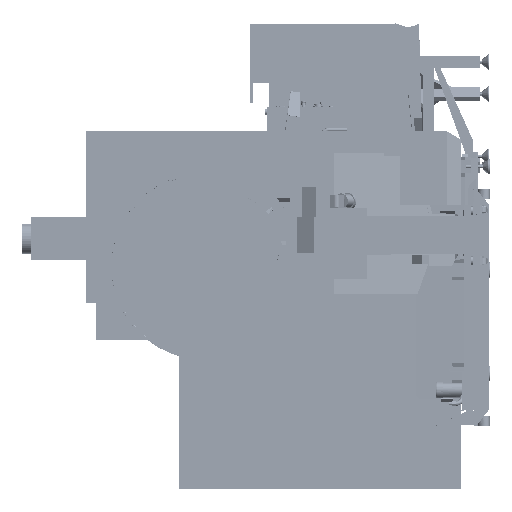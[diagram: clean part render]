
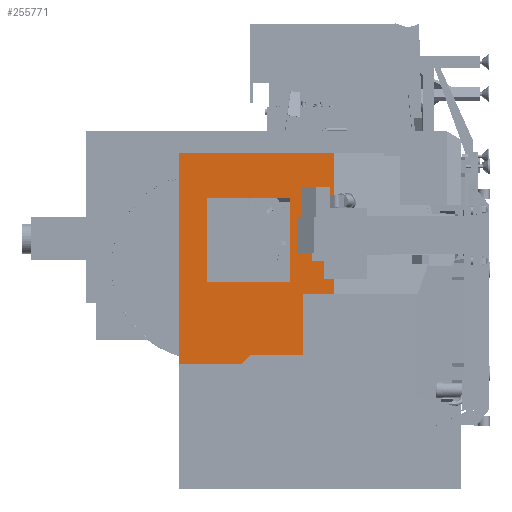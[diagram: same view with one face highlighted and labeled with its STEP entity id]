
A CAD part, left-side view. The second image highlights one B-rep face of the part: STEP entity #255771.
In plain terms, the highlighted planar face has unit normal (-1, 0, 0).
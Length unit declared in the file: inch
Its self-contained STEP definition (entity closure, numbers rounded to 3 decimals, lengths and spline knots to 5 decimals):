
#382 = DIRECTION ( 'NONE',  ( 0., 0., -1. ) ) ;
#821 = DIRECTION ( 'NONE',  ( 0., -0.707, 0.707 ) ) ;
#3482 = VERTEX_POINT ( 'NONE', #137118 ) ;
#4080 = ORIENTED_EDGE ( 'NONE', *, *, #277491, .F. ) ;
#24980 = DIRECTION ( 'NONE',  ( 0., -1., 0. ) ) ;
#52962 = ORIENTED_EDGE ( 'NONE', *, *, #492381, .F. ) ;
#67084 = ORIENTED_EDGE ( 'NONE', *, *, #466608, .F. ) ;
#67893 = CARTESIAN_POINT ( 'NONE',  ( -68.39252, 15.24116, 1.11177 ) ) ;
#67965 = LINE ( 'NONE', #452285, #139009 ) ;
#69365 = VERTEX_POINT ( 'NONE', #444125 ) ;
#71186 = DIRECTION ( 'NONE',  ( 0., -1., 0. ) ) ;
#87209 = AXIS2_PLACEMENT_3D ( 'NONE', #547776, #166621, #364938 ) ;
#97645 = CARTESIAN_POINT ( 'NONE',  ( -68.39252, 15.24116, 0.09177 ) ) ;
#103922 = VECTOR ( 'NONE', #71186, 39.37008 ) ;
#113078 = ORIENTED_EDGE ( 'NONE', *, *, #232618, .F. ) ;
#121220 = VERTEX_POINT ( 'NONE', #479004 ) ;
#126393 = CARTESIAN_POINT ( 'NONE',  ( -68.39252, 29.58547, 3.94017 ) ) ;
#128024 = VERTEX_POINT ( 'NONE', #530267 ) ;
#130298 = VECTOR ( 'NONE', #260233, 39.37008 ) ;
#136710 = ORIENTED_EDGE ( 'NONE', *, *, #173723, .T. ) ;
#137118 = CARTESIAN_POINT ( 'NONE',  ( -68.39252, 25.21437, 0.09177 ) ) ;
#139009 = VECTOR ( 'NONE', #405000, 39.37008 ) ;
#142442 = LINE ( 'NONE', #236912, #175477 ) ;
#144767 = CARTESIAN_POINT ( 'NONE',  ( -68.39252, 29.58547, 31.69017 ) ) ;
#148676 = DIRECTION ( 'NONE',  ( 0., -1., 0. ) ) ;
#152685 = VERTEX_POINT ( 'NONE', #619055 ) ;
#157169 = LINE ( 'NONE', #541406, #288860 ) ;
#157203 = ORIENTED_EDGE ( 'NONE', *, *, #215297, .F. ) ;
#159975 = CARTESIAN_POINT ( 'NONE',  ( -68.39252, 42.25903, -19.90873 ) ) ;
#165588 = EDGE_CURVE ( 'NONE', #121220, #485571, #574055, .T. ) ;
#166621 = DIRECTION ( 'NONE',  ( -1., 0., 0. ) ) ;
#167157 = ORIENTED_EDGE ( 'NONE', *, *, #480941, .T. ) ;
#172468 = EDGE_CURVE ( 'NONE', #587028, #3482, #325511, .T. ) ;
#172685 = EDGE_LOOP ( 'NONE', ( #222401, #238818, #4080, #67084, #136710, #603742, #167157, #468450 ) ) ;
#173723 = EDGE_CURVE ( 'NONE', #301249, #121220, #310559, .T. ) ;
#174297 = CARTESIAN_POINT ( 'NONE',  ( -68.39252, 29.58547, 31.69017 ) ) ;
#175477 = VECTOR ( 'NONE', #148676, 39.37008 ) ;
#176774 = ORIENTED_EDGE ( 'NONE', *, *, #320578, .F. ) ;
#180631 = CARTESIAN_POINT ( 'NONE',  ( -68.39252, 26.23437, 0.09177 ) ) ;
#186202 = VERTEX_POINT ( 'NONE', #174297 ) ;
#192454 = LINE ( 'NONE', #526402, #232879 ) ;
#200497 = EDGE_CURVE ( 'NONE', #69365, #3482, #219152, .T. ) ;
#210907 = CARTESIAN_POINT ( 'NONE',  ( -68.39252, 66.08457, -22.98323 ) ) ;
#215297 = EDGE_CURVE ( 'NONE', #357376, #128024, #192454, .T. ) ;
#219152 = LINE ( 'NONE', #464864, #130298 ) ;
#220025 = PLANE ( 'NONE',  #87209 ) ;
#222401 = ORIENTED_EDGE ( 'NONE', *, *, #172468, .F. ) ;
#223681 = CARTESIAN_POINT ( 'NONE',  ( -68.39252, 15.26274, 46.27217 ) ) ;
#232618 = EDGE_CURVE ( 'NONE', #186202, #357376, #484869, .T. ) ;
#232879 = VECTOR ( 'NONE', #382, 39.37008 ) ;
#236912 = CARTESIAN_POINT ( 'NONE',  ( -68.39252, 42.25903, -19.90873 ) ) ;
#238818 = ORIENTED_EDGE ( 'NONE', *, *, #436377, .F. ) ;
#255771 = ADVANCED_FACE ( 'NONE', ( #305250, #453330 ), #220025, .T. ) ;
#257023 = CARTESIAN_POINT ( 'NONE',  ( -68.39252, 66.08457, -22.98323 ) ) ;
#260233 = DIRECTION ( 'NONE',  ( 0., 0., 1. ) ) ;
#261690 = LINE ( 'NONE', #223681, #581014 ) ;
#264301 = LINE ( 'NONE', #456522, #274524 ) ;
#274524 = VECTOR ( 'NONE', #24980, 39.37008 ) ;
#277491 = EDGE_CURVE ( 'NONE', #580759, #152685, #261690, .T. ) ;
#279960 = VERTEX_POINT ( 'NONE', #126393 ) ;
#288860 = VECTOR ( 'NONE', #302022, 39.37008 ) ;
#301249 = VERTEX_POINT ( 'NONE', #210907 ) ;
#302022 = DIRECTION ( 'NONE',  ( 0., 0., 1. ) ) ;
#305250 = FACE_OUTER_BOUND ( 'NONE', #172685, .T. ) ;
#310559 = LINE ( 'NONE', #257023, #103922 ) ;
#320578 = EDGE_CURVE ( 'NONE', #128024, #279960, #264301, .T. ) ;
#325511 = LINE ( 'NONE', #180631, #414711 ) ;
#351420 = VECTOR ( 'NONE', #401974, 39.37008 ) ;
#357376 = VERTEX_POINT ( 'NONE', #596381 ) ;
#364938 = DIRECTION ( 'NONE',  ( 0., 0., 1. ) ) ;
#401825 = LINE ( 'NONE', #67893, #588339 ) ;
#401974 = DIRECTION ( 'NONE',  ( 0., 1., 0. ) ) ;
#405000 = DIRECTION ( 'NONE',  ( 0., 0., 1. ) ) ;
#414711 = VECTOR ( 'NONE', #574184, 39.37008 ) ;
#415927 = DIRECTION ( 'NONE',  ( 0., -1., 0. ) ) ;
#436377 = EDGE_CURVE ( 'NONE', #152685, #587028, #401825, .T. ) ;
#444125 = CARTESIAN_POINT ( 'NONE',  ( -68.39252, 25.21437, -19.90873 ) ) ;
#452219 = DIRECTION ( 'NONE',  ( 0., 0., -1. ) ) ;
#452285 = CARTESIAN_POINT ( 'NONE',  ( -68.39252, 66.08457, 45.25217 ) ) ;
#453330 = FACE_BOUND ( 'NONE', #530864, .T. ) ;
#456522 = CARTESIAN_POINT ( 'NONE',  ( -68.39252, 56.80089, 3.94017 ) ) ;
#464864 = CARTESIAN_POINT ( 'NONE',  ( -68.39252, 25.21437, 0.09177 ) ) ;
#466608 = EDGE_CURVE ( 'NONE', #301249, #580759, #67965, .T. ) ;
#468450 = ORIENTED_EDGE ( 'NONE', *, *, #200497, .T. ) ;
#479004 = CARTESIAN_POINT ( 'NONE',  ( -68.39252, 45.33353, -22.98323 ) ) ;
#479609 = CARTESIAN_POINT ( 'NONE',  ( -68.39252, 45.33353, -22.98323 ) ) ;
#480941 = EDGE_CURVE ( 'NONE', #485571, #69365, #142442, .T. ) ;
#484869 = LINE ( 'NONE', #144767, #351420 ) ;
#485571 = VERTEX_POINT ( 'NONE', #159975 ) ;
#492381 = EDGE_CURVE ( 'NONE', #279960, #186202, #157169, .T. ) ;
#526402 = CARTESIAN_POINT ( 'NONE',  ( -68.39252, 56.80089, 3.94017 ) ) ;
#530267 = CARTESIAN_POINT ( 'NONE',  ( -68.39252, 56.80089, 3.94017 ) ) ;
#530864 = EDGE_LOOP ( 'NONE', ( #176774, #157203, #113078, #52962 ) ) ;
#541406 = CARTESIAN_POINT ( 'NONE',  ( -68.39252, 29.58547, 3.94017 ) ) ;
#547776 = CARTESIAN_POINT ( 'NONE',  ( -68.39252, 26.23437, 1.11177 ) ) ;
#551030 = VECTOR ( 'NONE', #821, 39.37008 ) ;
#566273 = CARTESIAN_POINT ( 'NONE',  ( -68.39252, 66.08457, 46.27217 ) ) ;
#574055 = LINE ( 'NONE', #479609, #551030 ) ;
#574184 = DIRECTION ( 'NONE',  ( 0., 1., 0. ) ) ;
#580759 = VERTEX_POINT ( 'NONE', #566273 ) ;
#581014 = VECTOR ( 'NONE', #415927, 39.37008 ) ;
#587028 = VERTEX_POINT ( 'NONE', #97645 ) ;
#588339 = VECTOR ( 'NONE', #452219, 39.37008 ) ;
#596381 = CARTESIAN_POINT ( 'NONE',  ( -68.39252, 56.80089, 31.69017 ) ) ;
#603742 = ORIENTED_EDGE ( 'NONE', *, *, #165588, .T. ) ;
#619055 = CARTESIAN_POINT ( 'NONE',  ( -68.39252, 15.24116, 46.27217 ) ) ;
